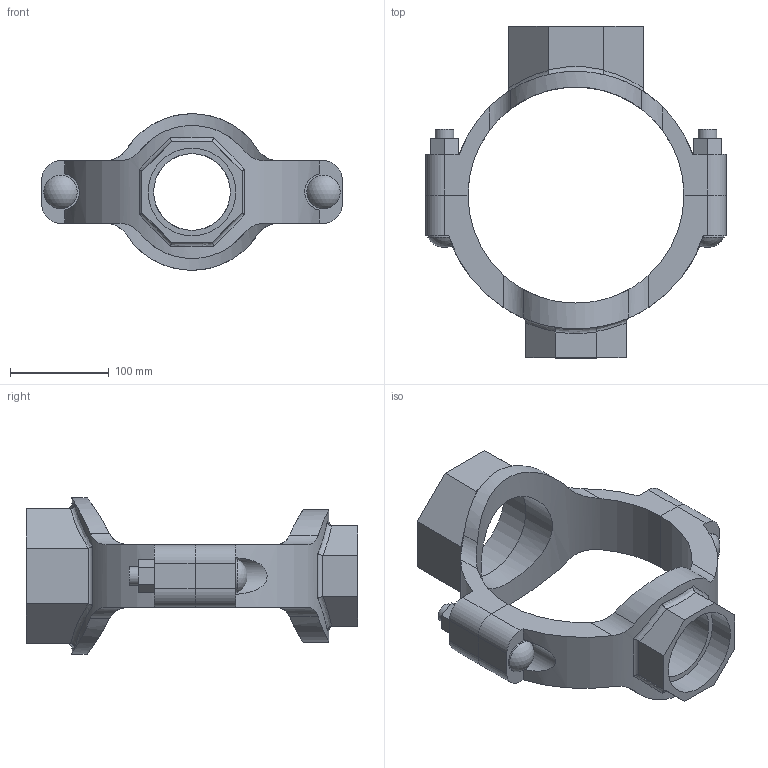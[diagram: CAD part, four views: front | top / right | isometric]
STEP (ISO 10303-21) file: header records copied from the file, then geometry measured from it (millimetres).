
FILE_DESCRIPTION(/* description */ ('VIC MECH-T BRANCH OUTLET CROSS STYLE 920N (THD)','CAx-IF Rec.Pracs.---Representation and Presentation of Product Manufacturing Information (PMI)---4.0---2014-10-13'),/* implementation_level */ '2;1');
FILE_NAME(/* name */ 'C:\Users\Vjadhav\AppData\Roaming\Autodesk\ApplicationPlugins\Back Up\Victaulic_IPS_Mechanical-Cross Outlet_Style 920N (FPT)\Victaulic_IPS_Mechanical-Cross Outlet_08.0x04.0x03.0 (200x100x80).stp',/* time_stamp */ '2020-08-06T19:01:15+06:00',/* author */ ('Vjadhav'),/* organization */ ('Victaulic'),/* preprocessor_version */ 'ST-DEVELOPER v17.2',/* originating_system */ 'Autodesk Inventor 2019',/* authorisation */ '');
FILE_SCHEMA (('AP242_MANAGED_MODEL_BASED_3D_ENGINEERING_MIM_LF { 1 0 10303 442 1 1 4 }'));
Length unit declared in the file: inch
Products named in the file (3): 920NT-08.0x04.0x03.0; 920T-08.0x04.0; 920T-08.0x03.0
Assembly tree (2 placements, depth 2):
  920NT-08.0x04.0x03.0
    920T-08.0x04.0
    920T-08.0x03.0
Bounding box: 304.8 x 336.55 x 158.72 mm (x, y, z)
Volume: 1707504.9 mm3; surface area: 264277.1 mm2
Topology: 2 solids, 2 shells, 132 faces, 350 edges, 236 vertices
Faces by surface type: plane 68, cylinder 50, bspline 8, torus 4, sphere 2
Full cylindrical faces by diameter (mm): 19.05 x4, 33.843 x2, 77.787 x1, 88.9 x1, 102.394 x1, 114.3 x1
Entity records: 5224 total; most frequent: CARTESIAN_POINT 1711, ORIENTED_EDGE 700, DIRECTION 648, EDGE_CURVE 350, VERTEX_POINT 236, AXIS2_PLACEMENT_3D 231, LINE 186, VECTOR 186
